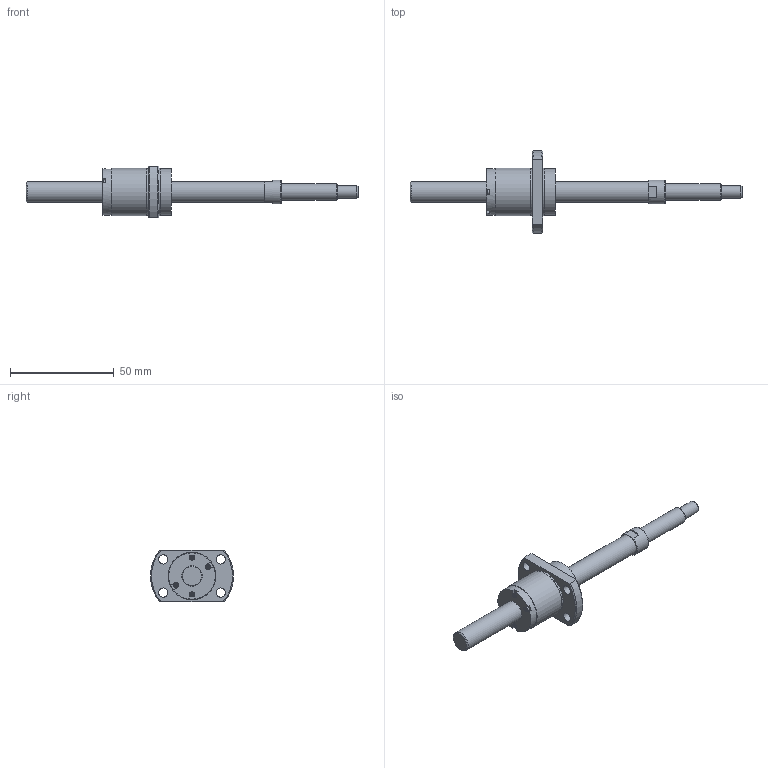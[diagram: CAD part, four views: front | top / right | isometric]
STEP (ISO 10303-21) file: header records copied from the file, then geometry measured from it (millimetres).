
FILE_DESCRIPTION( ( 'STEP AP214' ), '1' );
FILE_NAME( 'p:/temp/worker_8/2188_2204/app_90_12015063014495238419246260eae72_00_00_00_000/STEP/SG1015-107R160C5A1X_37__2_14.stp', ' ', ( ' ' ), ( ' ' ), 'PSStep 15.0.47', 'PARTsolutions', ' ' );
FILE_SCHEMA( ( 'AUTOMOTIVE_DESIGN { 1 0 10303 214 1 1 1 1 }' ) );
Length unit declared in the file: millimetre
Products named in the file (3): SG1015-107R160C5A1X(37); _SG1015-107R160C5A_shaft; _SG1015 C5_nut
Assembly tree (2 placements, depth 2):
  SG1015-107R160C5A1X(37)
    _SG1015-107R160C5A_shaft
    _SG1015 C5_nut
Bounding box: 160 x 40 x 25 mm (x, y, z)
Volume: 24614.3 mm3; surface area: 10507.2 mm2
Topology: 2 solids, 2 shells, 100 faces, 231 edges, 150 vertices
Faces by surface type: plane 63, cylinder 24, cone 12, torus 1
Full cylindrical faces by diameter (mm): 2.25 x4, 4.5 x4, 6 x1, 8 x1, 10 x2, 11.5 x1, 22.5 x3, 23 x2
Entity records: 3560 total; most frequent: CARTESIAN_POINT 477, DIRECTION 472, ORIENTED_EDGE 404, EDGE_CURVE 202, AXIS2_PLACEMENT_3D 175, EDGE_LOOP 152, VERTEX_POINT 148, LINE 122
